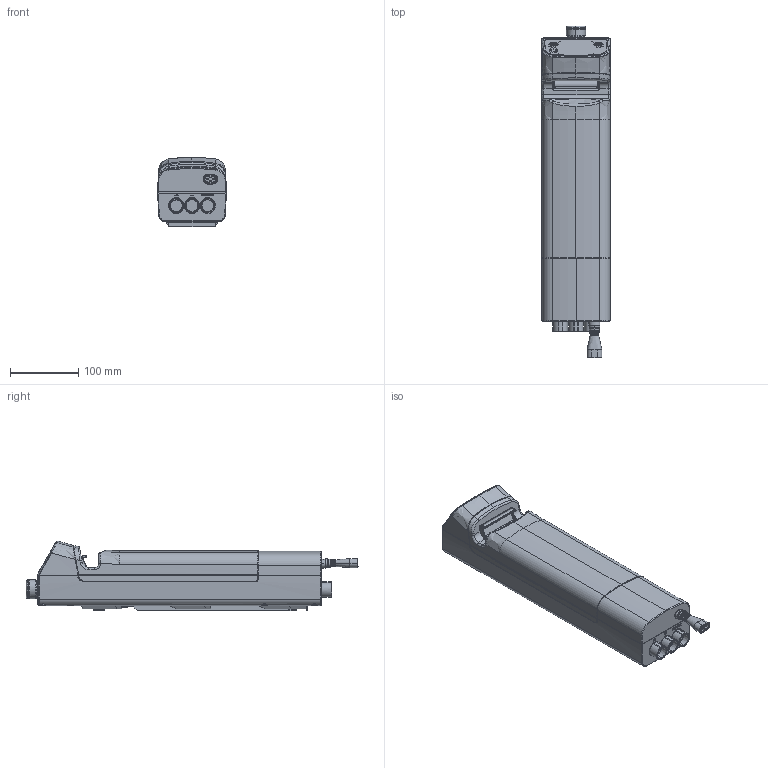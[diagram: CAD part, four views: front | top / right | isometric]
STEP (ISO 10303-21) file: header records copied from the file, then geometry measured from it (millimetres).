
FILE_DESCRIPTION (( 'STEP AP203' ), '1' );
FILE_NAME ('3D_TC12AC.STEP', '2018-08-22T09:25:35', ( '' ), ( '' ), 'SwSTEP 2.0', 'SolidWorks 2015', '' );
FILE_SCHEMA (( 'CONFIG_CONTROL_DESIGN' ));
Products named in the file (1): 3D_TC12AC
Bounding box: 100 x 485.74 x 101.94 mm (x, y, z)
Volume: 2173562.9 mm3; surface area: 531080.1 mm2
Topology: 14 solids, 26 shells, 3942 faces, 10295 edges, 6581 vertices
Faces by surface type: plane 1816, cylinder 1023, bspline 600, torus 249, cone 211, sphere 43
Entity records: 165631 total; most frequent: CARTESIAN_POINT 72934, ORIENTED_EDGE 20524, DIRECTION 17571, EDGE_CURVE 10262, VERTEX_POINT 6569, AXIS2_PLACEMENT_3D 5982, VECTOR 5607, LINE 5607
